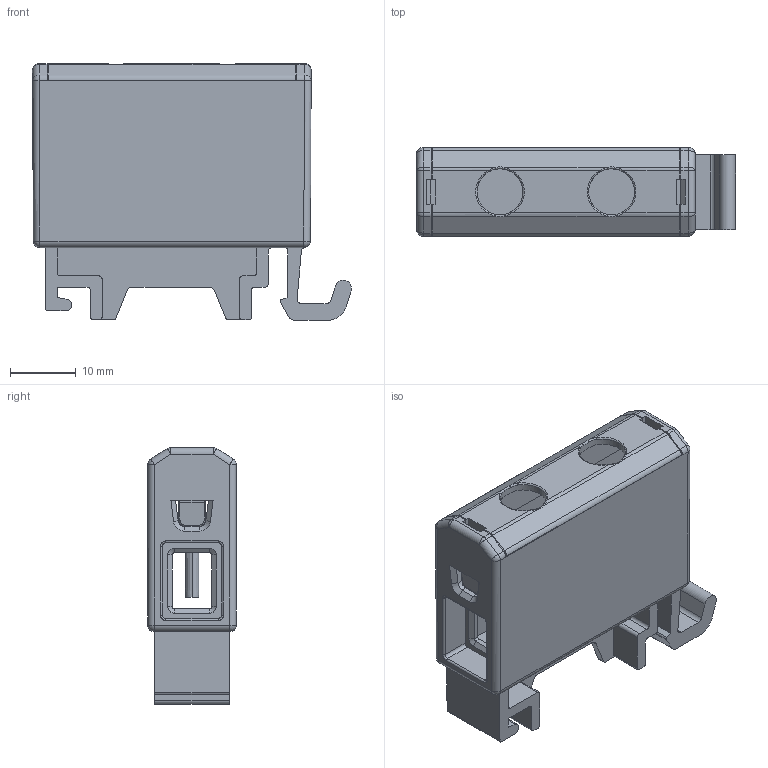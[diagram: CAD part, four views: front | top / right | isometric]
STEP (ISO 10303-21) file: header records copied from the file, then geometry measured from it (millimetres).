
FILE_DESCRIPTION((''),'2;1');
FILE_NAME('KE60_ASM','2016-06-03T',('Administrator'),(''),'PRO/ENGINEER BY PARAMETRIC TECHNOLOGY CORPORATION, 2009360','PRO/ENGINEER BY PARAMETRIC TECHNOLOGY CORPORATION, 2009360','');
FILE_SCHEMA(('CONFIG_CONTROL_DESIGN'));
Length unit declared in the file: millimetre
Products named in the file (3): KE60-ZUO; KE60-GAI; KE60_ASM
Assembly tree (2 placements, depth 2):
  KE60_ASM
    KE60-ZUO
    KE60-GAI
Bounding box: 48.56 x 13.5 x 39.07 mm (x, y, z)
Volume: 6934.2 mm3; surface area: 10229.7 mm2
Topology: 2 solids, 2 shells, 339 faces, 899 edges, 562 vertices
Faces by surface type: plane 167, cylinder 110, bspline 28, sphere 12, torus 12, cone 10
Entity records: 11590 total; most frequent: CARTESIAN_POINT 3158, ORIENTED_EDGE 1798, DIRECTION 1701, EDGE_CURVE 899, VECTOR 581, LINE 581, VERTEX_POINT 562, AXIS2_PLACEMENT_3D 560
